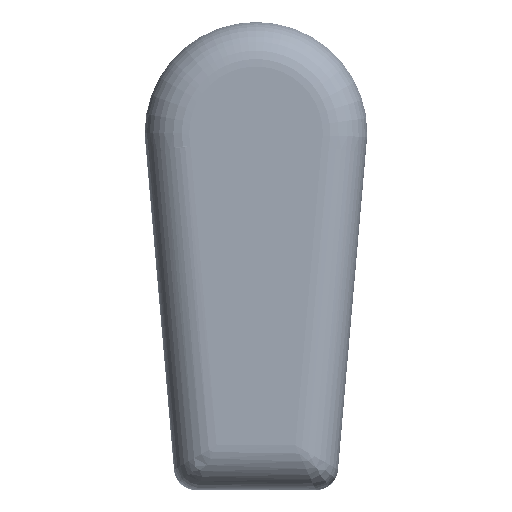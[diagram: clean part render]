
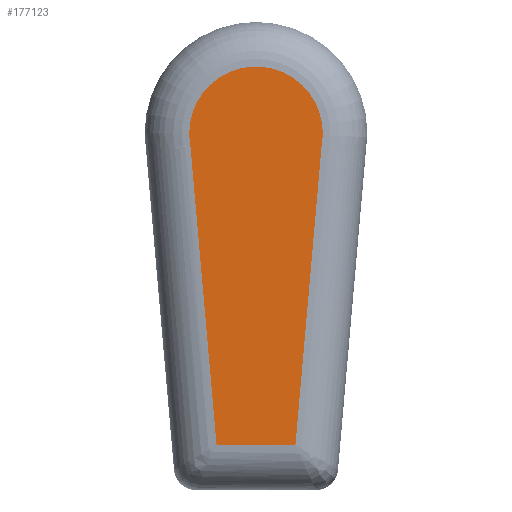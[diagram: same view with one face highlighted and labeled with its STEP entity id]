
A CAD part, front view. The second image highlights one B-rep face of the part: STEP entity #177123.
In plain terms, the highlighted planar face has unit normal (0, -1, 0) as drawn and (0, 0, 1) by its records, which use the part's own axes.
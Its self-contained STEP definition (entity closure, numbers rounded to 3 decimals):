
#10674=CIRCLE('',#187843,15.);
#16933=PLANE('',#187865);
#22398=FACE_OUTER_BOUND('',#32314,.T.);
#32314=EDGE_LOOP('',(#124699,#124700,#124701,#124702));
#43007=LINE('',#253457,#60666);
#43008=LINE('',#253459,#60667);
#43010=LINE('',#253462,#60669);
#60666=VECTOR('',#203553,10.);
#60667=VECTOR('',#203556,10.);
#60669=VECTOR('',#203560,10.);
#80867=VERTEX_POINT('',#253354);
#80870=VERTEX_POINT('',#253395);
#80872=VERTEX_POINT('',#253401);
#80873=VERTEX_POINT('',#253402);
#97760=EDGE_CURVE('',#80872,#80873,#10674,.T.);
#97771=EDGE_CURVE('',#80873,#80867,#43007,.T.);
#97772=EDGE_CURVE('',#80870,#80872,#43008,.T.);
#97774=EDGE_CURVE('',#80867,#80870,#43010,.T.);
#124699=ORIENTED_EDGE('',*,*,#97760,.F.);
#124700=ORIENTED_EDGE('',*,*,#97772,.F.);
#124701=ORIENTED_EDGE('',*,*,#97774,.F.);
#124702=ORIENTED_EDGE('',*,*,#97771,.F.);
#177123=ADVANCED_FACE('',(#22398),#16933,.T.);
#187843=AXIS2_PLACEMENT_3D('',#253403,#203542,#203543);
#187865=AXIS2_PLACEMENT_3D('',#253581,#203635,#203636);
#203542=DIRECTION('center_axis',(0.,0.,-1.));
#203543=DIRECTION('ref_axis',(-1.,0.,0.));
#203553=DIRECTION('',(0.996,-0.087,0.));
#203556=DIRECTION('',(-0.996,-0.087,0.));
#203560=DIRECTION('',(0.,-1.,0.));
#203635=DIRECTION('center_axis',(0.,0.,1.));
#203636=DIRECTION('ref_axis',(1.,0.,0.));
#253354=CARTESIAN_POINT('',(25.,8.838,4.));
#253395=CARTESIAN_POINT('',(25.,-8.838,4.));
#253401=CARTESIAN_POINT('',(-42.021,-14.701,4.));
#253402=CARTESIAN_POINT('',(-42.021,14.701,4.));
#253403=CARTESIAN_POINT('Origin',(-45.,0.,4.));
#253457=CARTESIAN_POINT('',(-28.97,13.559,4.));
#253459=CARTESIAN_POINT('',(-21.141,-12.874,4.));
#253462=CARTESIAN_POINT('',(25.,-12.5,4.));
#253581=CARTESIAN_POINT('Origin',(-17.5,0.,4.));
